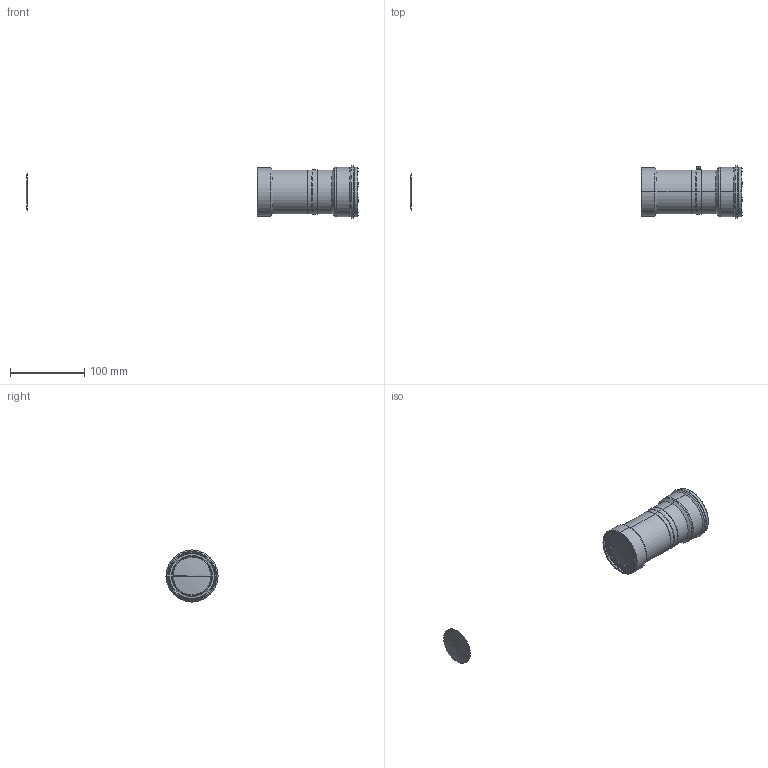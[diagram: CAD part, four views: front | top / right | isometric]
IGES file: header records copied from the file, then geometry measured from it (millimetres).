
Start section: SolidWorks IGES file using analytic representation for surfaces
Bounding box: 446.5 x 70 x 70 mm (x, y, z)
Surface area: 38081.8 mm2 (no closed solid volume)
Topology: 0 solids, 0 shells, 127 faces, 2494 edges, 2492 vertices
Faces by surface type: revolution 110, bspline 17
